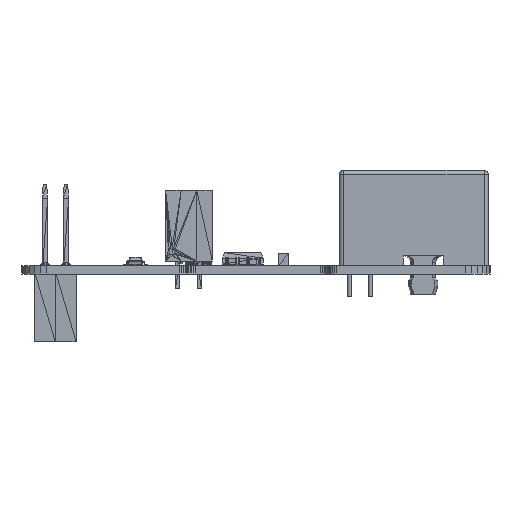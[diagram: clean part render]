
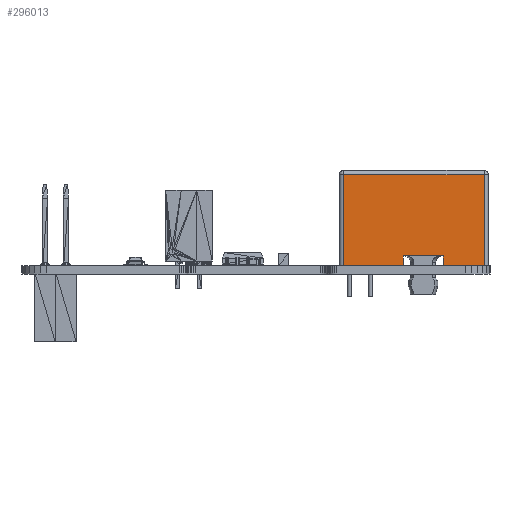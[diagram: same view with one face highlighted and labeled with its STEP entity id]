
A CAD part, left-side view. The second image highlights one B-rep face of the part: STEP entity #296013.
In plain terms, the highlighted planar face has unit normal (-1, 0, 0).
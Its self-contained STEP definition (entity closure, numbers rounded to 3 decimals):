
#2144=FACE_OUTER_BOUND('',#28746,.T.);
#28746=EDGE_LOOP('',(#190311,#190312,#190313,#190314,#190315,#190316,#190317,
#190318));
#55315=LINE('',#444315,#95000);
#55318=LINE('',#444325,#95003);
#55352=LINE('',#444407,#95037);
#55353=LINE('',#444411,#95038);
#55354=LINE('',#444412,#95039);
#55355=LINE('',#444414,#95040);
#55356=LINE('',#444416,#95041);
#55357=LINE('',#444417,#95042);
#95000=VECTOR('',#350775,1.);
#95003=VECTOR('',#350786,1.);
#95037=VECTOR('',#350858,1.);
#95038=VECTOR('',#350861,1.);
#95039=VECTOR('',#350862,1.);
#95040=VECTOR('',#350863,1.);
#95041=VECTOR('',#350864,1.);
#95042=VECTOR('',#350865,1.);
#134883=VERTEX_POINT('',#444313);
#134884=VERTEX_POINT('',#444314);
#134887=VERTEX_POINT('',#444323);
#134916=VERTEX_POINT('',#444405);
#134917=VERTEX_POINT('',#444409);
#134918=VERTEX_POINT('',#444410);
#134919=VERTEX_POINT('',#444413);
#134920=VERTEX_POINT('',#444415);
#149253=EDGE_CURVE('',#134883,#134884,#55315,.T.);
#149259=EDGE_CURVE('',#134883,#134887,#55318,.T.);
#149301=EDGE_CURVE('',#134887,#134916,#55352,.T.);
#149302=EDGE_CURVE('',#134917,#134918,#55353,.T.);
#149303=EDGE_CURVE('',#134884,#134917,#55354,.T.);
#149304=EDGE_CURVE('',#134916,#134919,#55355,.T.);
#149305=EDGE_CURVE('',#134920,#134919,#55356,.T.);
#149306=EDGE_CURVE('',#134920,#134918,#55357,.T.);
#190311=ORIENTED_EDGE('',*,*,#149302,.F.);
#190312=ORIENTED_EDGE('',*,*,#149303,.F.);
#190313=ORIENTED_EDGE('',*,*,#149253,.F.);
#190314=ORIENTED_EDGE('',*,*,#149259,.T.);
#190315=ORIENTED_EDGE('',*,*,#149301,.T.);
#190316=ORIENTED_EDGE('',*,*,#149304,.T.);
#190317=ORIENTED_EDGE('',*,*,#149305,.F.);
#190318=ORIENTED_EDGE('',*,*,#149306,.T.);
#269739=PLANE('',#323051);
#296013=ADVANCED_FACE('',(#2144),#269739,.T.);
#323051=AXIS2_PLACEMENT_3D('',#444408,#350859,#350860);
#350775=DIRECTION('',(0.,1.,0.));
#350786=DIRECTION('',(0.,0.,1.));
#350858=DIRECTION('',(0.,1.,0.));
#350859=DIRECTION('center_axis',(-1.,0.,0.));
#350860=DIRECTION('ref_axis',(0.,-1.,0.));
#350861=DIRECTION('',(0.,-1.,0.));
#350862=DIRECTION('',(0.,0.,1.));
#350863=DIRECTION('',(0.,0.,1.));
#350864=DIRECTION('',(0.,1.,0.));
#350865=DIRECTION('',(0.,0.,1.));
#444313=CARTESIAN_POINT('',(-6.6,0.,-17.5));
#444314=CARTESIAN_POINT('',(-6.6,11.,-17.5));
#444315=CARTESIAN_POINT('',(-6.6,0.,-17.5));
#444323=CARTESIAN_POINT('',(-6.6,0.,-10.3));
#444325=CARTESIAN_POINT('',(-6.6,0.,-17.5));
#444405=CARTESIAN_POINT('',(-6.6,1.2,-10.3));
#444407=CARTESIAN_POINT('',(-6.6,0.,-10.3));
#444408=CARTESIAN_POINT('Origin',(-6.6,11.5,0.));
#444409=CARTESIAN_POINT('',(-6.6,11.,-0.5));
#444410=CARTESIAN_POINT('',(-6.6,0.,-0.5));
#444411=CARTESIAN_POINT('',(-6.6,11.,-0.5));
#444412=CARTESIAN_POINT('',(-6.6,11.,-17.5));
#444413=CARTESIAN_POINT('',(-6.6,1.2,-5.46));
#444414=CARTESIAN_POINT('',(-6.6,1.2,-10.3));
#444415=CARTESIAN_POINT('',(-6.6,0.,-5.46));
#444416=CARTESIAN_POINT('',(-6.6,0.,-5.46));
#444417=CARTESIAN_POINT('',(-6.6,0.,-5.46));
